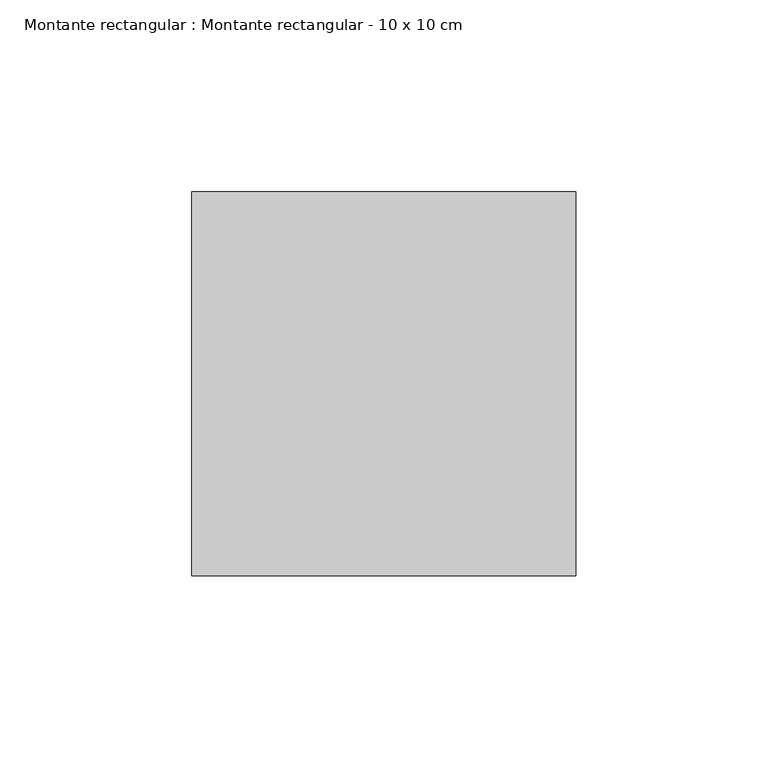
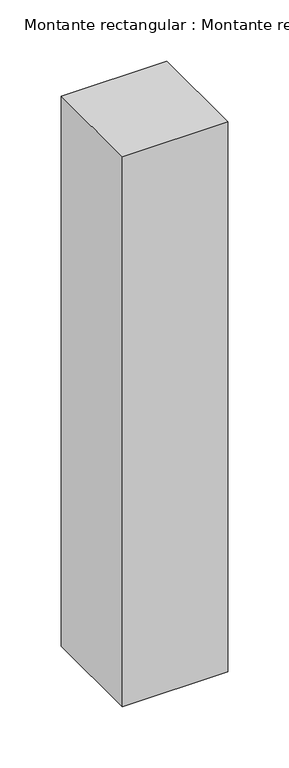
"""IFC4 building model written with IfcOpenShell, lengths in millimetres: member geometry, Montante rectangular : Montante rectangular - 10 x 10 cm."""

from ifc_helpers import new_model, si_unit, frame, origin, place, context, project, spatial, polyline, outline, extrude, source, transform, mapped, element, save


def montante_rectangular_montante_rectangular_10_x_10_cm_d035b39a(model_context):
    return source(origin(), model_context, "Body", "SweptSolid", [
        extrude(outline(polyline([(-100.0, -50.0), (-100.0, 50.0), (0.0, 50.0), (0.0, -50.0), (-100.0, -50.0)])), frame((0.0, 0.0, -550.0), z_axis=(0.0, 0.0, 1.0), x_axis=(1.0, 0.0, 0.0)), (0.0, 0.0, 1.0), 550.0),
    ])


if __name__ == "__main__":
    model = new_model("IFC4")
    model_context = context("Model", 3, world=origin())
    ifc_project = project(units=[si_unit("LENGTHUNIT", "METRE", prefix="MILLI")], contexts=[model_context])
    site = spatial("IfcSite", under=ifc_project)
    building = spatial("IfcBuilding", under=site)
    placement = place(None, origin())
    montante_rectangular_montante_rectangular_10_x_10_cm_shape = montante_rectangular_montante_rectangular_10_x_10_cm_d035b39a(model_context)
    element("IfcMember", 1, ObjectType="Montante rectangular : Montante rectangular - 10 x 10 cm", at=placement, inside=building, context=model_context, shape_type="MappedRepresentation", body=[
        mapped(montante_rectangular_montante_rectangular_10_x_10_cm_shape, transform((0.0, 0.0, 0.0), x_axis=(1.0, 0.0, 0.0), y_axis=(0.0, 1.0, 0.0), z_axis=(0.0, 0.0, 1.0))),
    ])
    save(model, "model.ifc")
